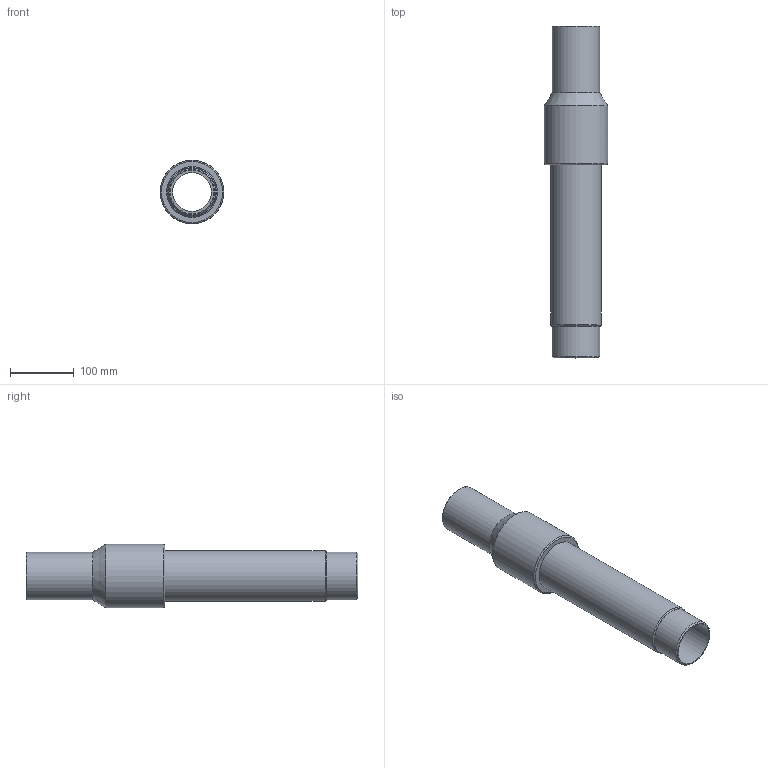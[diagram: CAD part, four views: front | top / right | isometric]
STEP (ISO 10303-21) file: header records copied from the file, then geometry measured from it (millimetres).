
FILE_DESCRIPTION(/* description */ ('Unknown'),/* implementation_level */ '2;1');
FILE_NAME(/* name */ 'RTSZRP075C',/* time_stamp */ '2022-04-27T10:02:42+02:00',/* author */ ('Unknown'),/* organization */ ('Unknown'),/* preprocessor_version */ 'ST-DEVELOPER v18.1',/* originating_system */ 'Solid Edge',/* authorisation */ 'Unknown');
FILE_SCHEMA (('AUTOMOTIVE_DESIGN {1 0 10303 214 3 1 1}'));
Length unit declared in the file: millimetre
Products named in the file (4): RTSZRP075C; Partea ACCIAIO; copertura tubo; Parte PE__oa_0
Assembly tree (3 placements, depth 2):
  RTSZRP075C
    Partea ACCIAIO
    copertura tubo
    Parte PE__oa_0
Bounding box: 100.4 x 522 x 100.4 mm (x, y, z)
Volume: 955762 mm3; surface area: 469633.1 mm2
Topology: 3 solids, 3 shells, 44 faces, 92 edges, 62 vertices
Faces by surface type: cylinder 14, plane 13, bspline 12, cone 3, torus 2
Full cylindrical faces by diameter (mm): 61.4 x1, 68.9 x1, 75 x1, 75.1 x1, 76.1 x2, 79.7 x2, 100.4 x1
Entity records: 2159 total; most frequent: CARTESIAN_POINT 1320, DIRECTION 136, ORIENTED_EDGE 118, EDGE_LOOP 80, FACE_BOUND 80, AXIS2_PLACEMENT_3D 63, EDGE_CURVE 59, VERTEX_POINT 51
